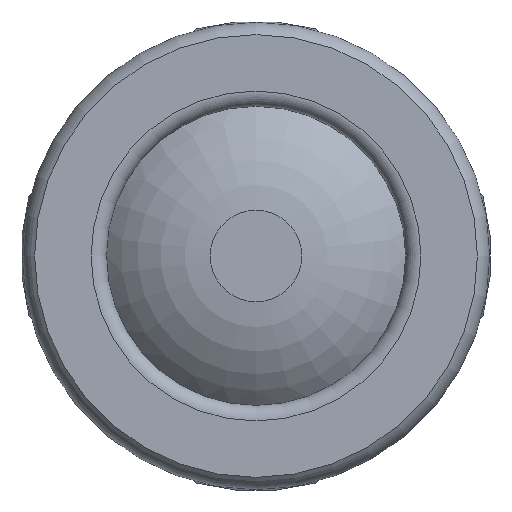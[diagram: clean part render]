
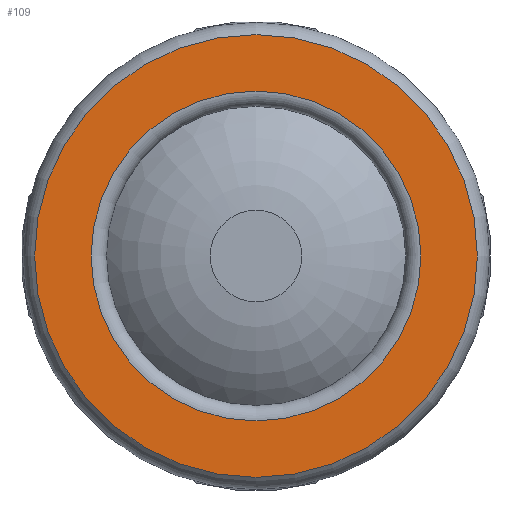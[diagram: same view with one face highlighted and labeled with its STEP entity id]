
A CAD part, front view. The second image highlights one B-rep face of the part: STEP entity #109.
In plain terms, the highlighted planar face has unit normal (0, -1, 0).
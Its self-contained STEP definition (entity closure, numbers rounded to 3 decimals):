
#109=ADVANCED_FACE('',(#577,#579),#581,.F.);
#577=FACE_BOUND('',#578,.T.);
#578=EDGE_LOOP('',(#1267));
#579=FACE_BOUND('',#580,.T.);
#580=EDGE_LOOP('',(#1268));
#581=PLANE('',#582);
#582=AXIS2_PLACEMENT_3D('',#583,#584,#585);
#583=CARTESIAN_POINT('',(0.,-4.5,0.));
#584=DIRECTION('',(0.,1.,0.));
#585=DIRECTION('',(-1.,0.,0.));
#1267=ORIENTED_EDGE('',*,*,#1597,.F.);
#1268=ORIENTED_EDGE('',*,*,#1596,.T.);
#1596=EDGE_CURVE('',#1979,#1979,#1980,.F.);
#1597=EDGE_CURVE('',#1981,#1981,#1982,.T.);
#1979=VERTEX_POINT('',#2792);
#1980=CIRCLE('',#2793,5.4);
#1981=VERTEX_POINT('',#2797);
#1982=CIRCLE('',#2798,7.25);
#2792=CARTESIAN_POINT('',(0.,-4.5,5.4));
#2793=AXIS2_PLACEMENT_3D('',#2794,#2795,#2796);
#2794=CARTESIAN_POINT('',(0.,-4.5,0.));
#2795=DIRECTION('',(0.,-1.,0.));
#2796=DIRECTION('',(0.,0.,1.));
#2797=CARTESIAN_POINT('',(-7.25,-4.5,0.));
#2798=AXIS2_PLACEMENT_3D('',#2799,#2800,#2801);
#2799=CARTESIAN_POINT('',(0.,-4.5,0.));
#2800=DIRECTION('',(0.,1.,0.));
#2801=DIRECTION('',(-1.,0.,0.));
